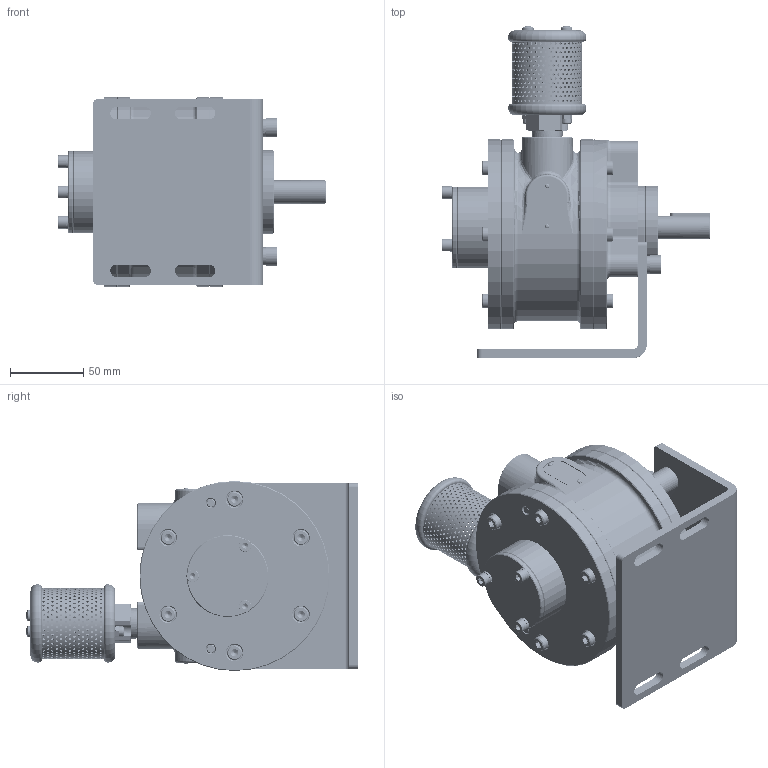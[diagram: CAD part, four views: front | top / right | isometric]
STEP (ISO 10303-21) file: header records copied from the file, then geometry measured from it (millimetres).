
FILE_DESCRIPTION (( 'STEP AP214' ), '1' );
FILE_NAME ('6VMS-SGI (22-04-26).STEP', '2026-04-23T04:28:54', ( '' ), ( '' ), 'SwSTEP 2.0', 'SolidWorks 2017', '' );
FILE_SCHEMA (( 'AUTOMOTIVE_DESIGN' ));
Length unit declared in the file: millimetre
Products named in the file (2): 6VMS-SGI (22-04-26)
Bounding box: 183.15 x 227.17 x 130 mm (x, y, z)
Volume: 807342.5 mm3; surface area: 278083.7 mm2
Topology: 57 solids, 57 shells, 4891 faces, 12453 edges, 7619 vertices
Faces by surface type: cylinder 2537, cone 1430, plane 706, torus 162, bspline 32, sphere 24
Entity records: 244961 total; most frequent: CARTESIAN_POINT 74719, ORIENTED_EDGE 24622, DIRECTION 22473, EDGE_CURVE 12311, AXIS2_PLACEMENT_3D 8744, VERTEX_POINT 7615, EDGE_LOOP 6554, VECTOR 4985
